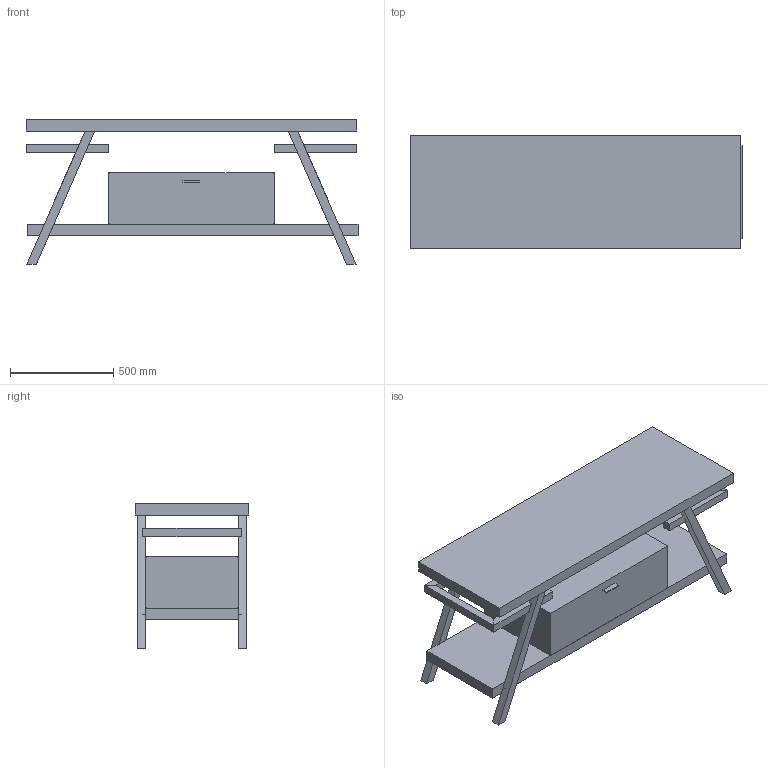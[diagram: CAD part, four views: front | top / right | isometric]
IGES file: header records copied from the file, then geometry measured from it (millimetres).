
Global section: file name: \\Archi-NAS\Comune\X GIOVANNI\MOBILI\PROVENCE\PROVENCE DRAWER.igs; native system: Rhinoceros ( Jan 17 2018 ); preprocessor: Trout Lake IGES 012 Jan 17 2018; date: 230608.070939; units: millimetre
Bounding box: 1605.66 x 550 x 700 mm (x, y, z)
Surface area: 8308900.8 mm2 (no closed solid volume)
Topology: 0 solids, 0 shells, 162 faces, 840 edges, 840 vertices
Faces by surface type: bspline 162
